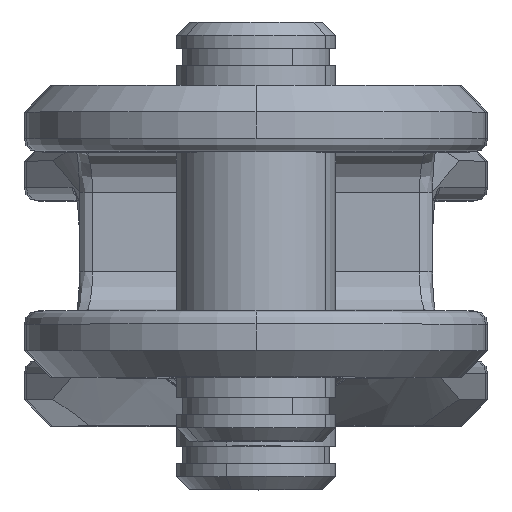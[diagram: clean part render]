
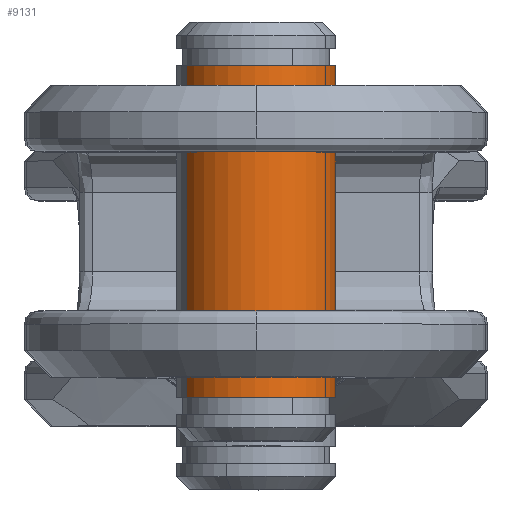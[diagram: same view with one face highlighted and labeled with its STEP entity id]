
A CAD part, top view. The second image highlights one B-rep face of the part: STEP entity #9131.
In plain terms, the highlighted cylindrical face has radius 6 mm (diameter 12 mm), a partial arc.
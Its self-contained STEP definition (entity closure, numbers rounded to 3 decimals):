
#185 = ORIENTED_EDGE ( 'NONE', *, *, #2424, .T. ) ;
#774 = VERTEX_POINT ( 'NONE', #5826 ) ;
#887 = CARTESIAN_POINT ( 'NONE',  ( 3.3, 0., 6. ) ) ;
#940 = DIRECTION ( 'NONE',  ( 0., -1., 0. ) ) ;
#1038 = AXIS2_PLACEMENT_3D ( 'NONE', #2686, #3095, #940 ) ;
#1626 = CARTESIAN_POINT ( 'NONE',  ( 3.3, 0., -6. ) ) ;
#1831 = EDGE_LOOP ( 'NONE', ( #6130, #185, #3130, #7871 ) ) ;
#2074 = CARTESIAN_POINT ( 'NONE',  ( 0., 0., 6. ) ) ;
#2390 = AXIS2_PLACEMENT_3D ( 'NONE', #4026, #9074, #4767 ) ;
#2424 = EDGE_CURVE ( 'NONE', #774, #4470, #4861, .T. ) ;
#2522 = CARTESIAN_POINT ( 'NONE',  ( 0., 0., -6. ) ) ;
#2686 = CARTESIAN_POINT ( 'NONE',  ( 28.3, 0., 0. ) ) ;
#3066 = CARTESIAN_POINT ( 'NONE',  ( 0., 0., 0. ) ) ;
#3095 = DIRECTION ( 'NONE',  ( -1., 0., 0. ) ) ;
#3130 = ORIENTED_EDGE ( 'NONE', *, *, #5475, .T. ) ;
#3289 = DIRECTION ( 'NONE',  ( -1., 0., 0. ) ) ;
#3730 = CYLINDRICAL_SURFACE ( 'NONE', #7988, 6. ) ;
#4026 = CARTESIAN_POINT ( 'NONE',  ( 3.3, 0., 0. ) ) ;
#4144 = VECTOR ( 'NONE', #6601, 1000. ) ;
#4470 = VERTEX_POINT ( 'NONE', #7590 ) ;
#4767 = DIRECTION ( 'NONE',  ( 0., -1., 0. ) ) ;
#4861 = CIRCLE ( 'NONE', #1038, 6. ) ;
#5010 = EDGE_CURVE ( 'NONE', #6640, #8467, #8139, .T. ) ;
#5475 = EDGE_CURVE ( 'NONE', #4470, #8467, #8031, .T. ) ;
#5826 = CARTESIAN_POINT ( 'NONE',  ( 28.3, 0., -6. ) ) ;
#5948 = FACE_OUTER_BOUND ( 'NONE', #1831, .T. ) ;
#6130 = ORIENTED_EDGE ( 'NONE', *, *, #7246, .F. ) ;
#6601 = DIRECTION ( 'NONE',  ( -1., 0., 0. ) ) ;
#6640 = VERTEX_POINT ( 'NONE', #1626 ) ;
#6803 = VECTOR ( 'NONE', #3289, 1000. ) ;
#7246 = EDGE_CURVE ( 'NONE', #774, #6640, #8648, .T. ) ;
#7590 = CARTESIAN_POINT ( 'NONE',  ( 28.3, 0., 6. ) ) ;
#7871 = ORIENTED_EDGE ( 'NONE', *, *, #5010, .F. ) ;
#7988 = AXIS2_PLACEMENT_3D ( 'NONE', #3066, #9540, #8218 ) ;
#8031 = LINE ( 'NONE', #2074, #4144 ) ;
#8139 = CIRCLE ( 'NONE', #2390, 6. ) ;
#8218 = DIRECTION ( 'NONE',  ( 0., 0., 1. ) ) ;
#8467 = VERTEX_POINT ( 'NONE', #887 ) ;
#8648 = LINE ( 'NONE', #2522, #6803 ) ;
#9074 = DIRECTION ( 'NONE',  ( -1., 0., 0. ) ) ;
#9131 = ADVANCED_FACE ( 'NONE', ( #5948 ), #3730, .T. ) ;
#9540 = DIRECTION ( 'NONE',  ( -1., 0., 0. ) ) ;
